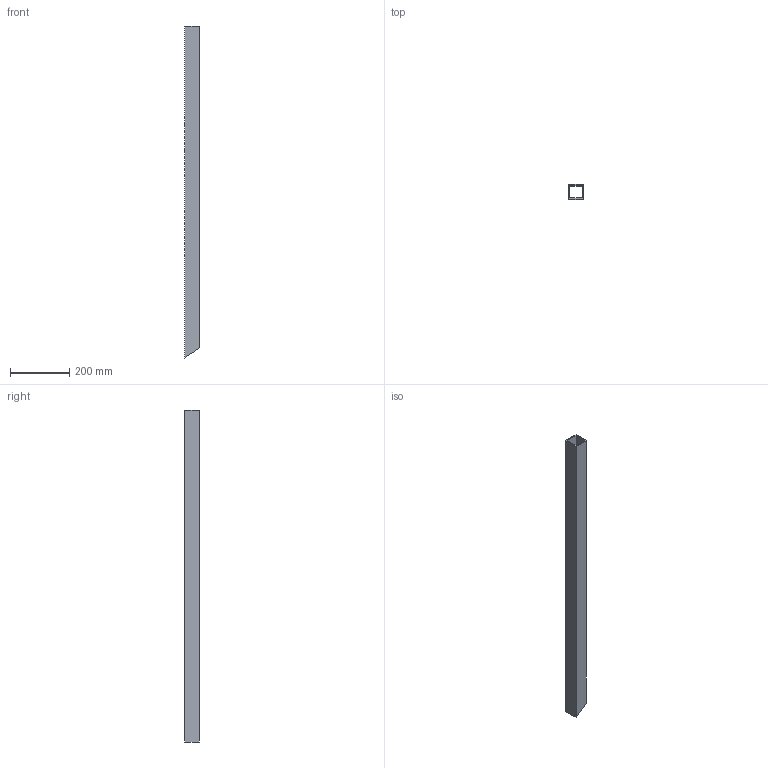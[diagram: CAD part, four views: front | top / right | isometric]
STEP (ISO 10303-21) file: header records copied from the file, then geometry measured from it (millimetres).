
FILE_DESCRIPTION(('Open CASCADE Model'),'2;1');
FILE_NAME('Open CASCADE Shape Model','2026-10-15T15:10:04',('Author'),( 'Open CASCADE'),'Open CASCADE STEP processor 8.0','Open CASCADE 8.0' ,'Unknown');
FILE_SCHEMA(('AUTOMOTIVE_DESIGN { 1 0 10303 214 1 1 1 1 }'));
Length unit declared in the file: millimetre
Products named in the file (1): SHS50x50x4_L1101268_CUT8d077a_P05 36
Bounding box: 50 x 50 x 1118.77 mm (x, y, z)
Volume: 810533.6 mm3; surface area: 406901.2 mm2
Topology: 1 solids, 1 shells, 10 faces, 24 edges, 16 vertices
Faces by surface type: plane 10
Entity records: 582 total; most frequent: CARTESIAN_POINT 131, DIRECTION 62, ORIENTED_EDGE 48, PCURVE 48, DEFINITIONAL_REPRESENTATION 48, LINE 40, VECTOR 40, B_SPLINE_CURVE_WITH_KNOTS 32
